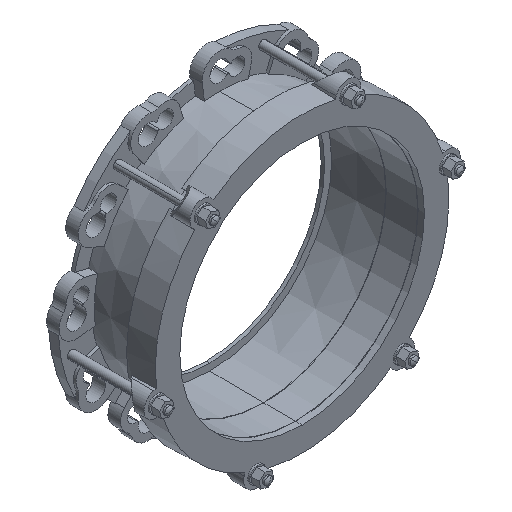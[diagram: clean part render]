
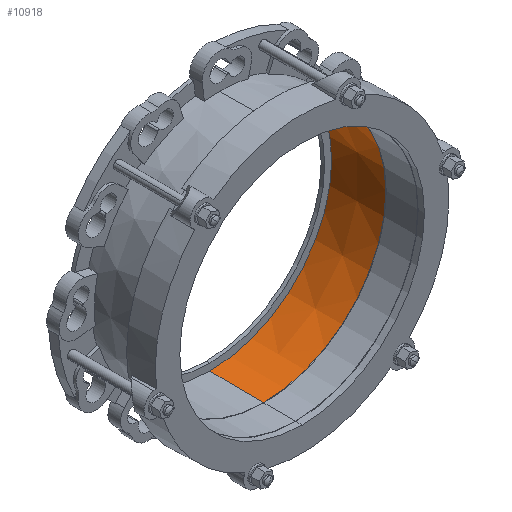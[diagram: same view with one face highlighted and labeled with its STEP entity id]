
A CAD part, isometric view. The second image highlights one B-rep face of the part: STEP entity #10918.
In plain terms, the highlighted conical face has half-angle 0.559 degrees and reference radius 174.875 mm.
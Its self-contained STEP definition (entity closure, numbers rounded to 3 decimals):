
#4413=CARTESIAN_POINT('',(0.,-5.,0.));
#4414=DIRECTION('',(0.,-1.,0.));
#4415=DIRECTION('',(0.,0.,-1.));
#4416=AXIS2_PLACEMENT_3D('',#4413,#4414,#4415);
#4418=DIRECTION('',(0.,-1.,-0.01));
#4419=VECTOR('',#4418,76.852);
#4420=CARTESIAN_POINT('',(0.,-5.,-174.5));
#4421=LINE('',#4420,#4419);
#4422=DIRECTION('',(0.,-1.,0.01));
#4423=VECTOR('',#4422,76.852);
#4424=CARTESIAN_POINT('',(0.,-5.,174.5));
#4425=LINE('',#4424,#4423);
#4444=CARTESIAN_POINT('',(0.,-81.848,0.));
#4445=DIRECTION('',(0.,-1.,0.));
#4446=DIRECTION('',(0.,0.,-1.));
#4447=AXIS2_PLACEMENT_3D('',#4444,#4445,#4446);
#4516=CARTESIAN_POINT('',(0.,-5.,-174.5));
#4517=CARTESIAN_POINT('',(0.,-81.848,-175.25));
#4518=VERTEX_POINT('',#4516);
#4519=VERTEX_POINT('',#4517);
#4536=CARTESIAN_POINT('',(0.,-5.,174.5));
#4537=CARTESIAN_POINT('',(0.,-81.848,175.25));
#4538=VERTEX_POINT('',#4536);
#4539=VERTEX_POINT('',#4537);
#10904=CARTESIAN_POINT('',(0.,-43.424,0.));
#10905=DIRECTION('',(0.,-1.,0.));
#10906=DIRECTION('',(0.,0.,1.));
#10907=AXIS2_PLACEMENT_3D('',#10904,#10905,#10906);
#10908=CONICAL_SURFACE('',#10907,174.875,0.559);
#10910=ORIENTED_EDGE('',*,*,#10909,.F.);
#10911=ORIENTED_EDGE('',*,*,#10893,.T.);
#10913=ORIENTED_EDGE('',*,*,#10912,.T.);
#10915=ORIENTED_EDGE('',*,*,#10914,.F.);
#10916=EDGE_LOOP('',(#10910,#10911,#10913,#10915));
#10917=FACE_OUTER_BOUND('',#10916,.F.);
#10918=ADVANCED_FACE('',(#10917),#10908,.F.);
#4417=CIRCLE('',#4416,174.5);
#4448=CIRCLE('',#4447,175.25);
#10893=EDGE_CURVE('',#4518,#4538,#4417,.T.);
#10909=EDGE_CURVE('',#4518,#4519,#4421,.T.);
#10912=EDGE_CURVE('',#4538,#4539,#4425,.T.);
#10914=EDGE_CURVE('',#4519,#4539,#4448,.T.);
